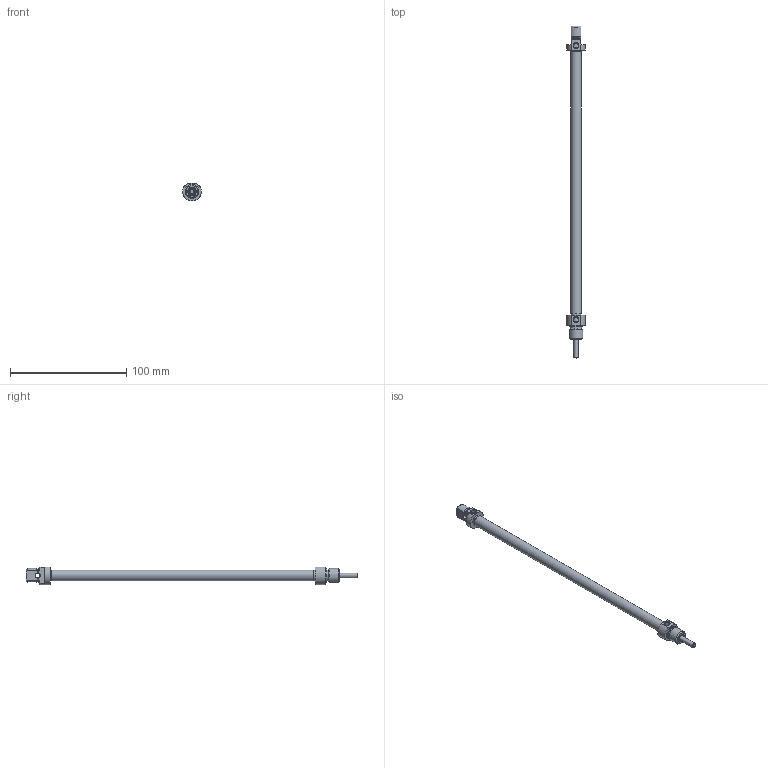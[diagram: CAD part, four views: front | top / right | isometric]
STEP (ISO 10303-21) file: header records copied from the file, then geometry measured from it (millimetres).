
FILE_DESCRIPTION((''),'2;1');
FILE_NAME('T:\Archivio Inventor\- 00 NUOVI STP PER SITO CON STELO CHE SI MUOVE\SERIE O\ODM\ODM008.---.GS.M\ODM008.200.GS.M.stp','2014-02-25T14:18:22',('carlo.corazza'),(''),'Autodesk Inventor 2012','Autodesk Inventor 2012','');
FILE_SCHEMA(('AUTOMOTIVE_DESIGN { 1 0 10303 214 1 1 1 1 }'));
Length unit declared in the file: millimetre
Products named in the file (5): ODM008..GS.M; TP; STELO-200; CORPO-200; TA
Assembly tree (4 placements, depth 2):
  ODM008..GS.M
    TP
    STELO-200
    CORPO-200
    TA
Bounding box: 16 x 286 x 15 mm (x, y, z)
Volume: 12342.6 mm3; surface area: 18647.1 mm2
Topology: 4 solids, 4 shells, 90 faces, 180 edges, 114 vertices
Faces by surface type: plane 32, cylinder 29, cone 22, torus 7
Full cylindrical faces by diameter (mm): 3 x1, 4 x2, 4.134 x2, 4.426 x1, 4.7 x1, 6.5 x1, 6.6 x1, 6.7 x1, 8 x1, 8.1 x1, 8.2 x1, 9.2 x2, 9.27 x1, 10 x1, 12 x2
Entity records: 2353 total; most frequent: CARTESIAN_POINT 419, DIRECTION 402, ORIENTED_EDGE 260, AXIS2_PLACEMENT_3D 183, EDGE_LOOP 154, EDGE_CURVE 130, VERTEX_POINT 108, FACE_OUTER_BOUND 90
